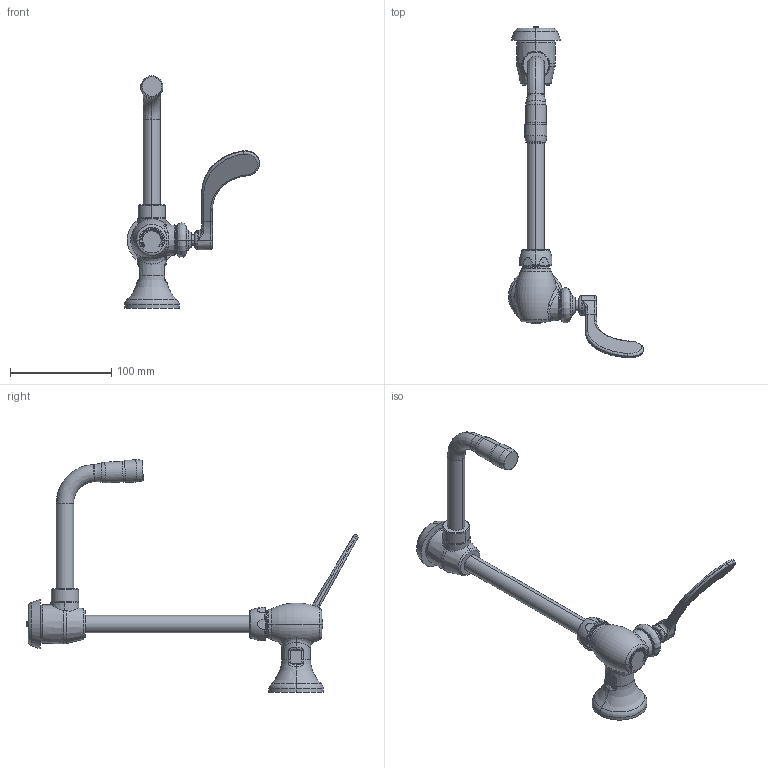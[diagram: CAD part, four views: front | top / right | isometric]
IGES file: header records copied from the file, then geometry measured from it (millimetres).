
Start section:  PTC IGES file: LWS4-A25-E.igs
Global section: file name: LWS4-A25-E.igs; native system: Creo Parametric by PTC Inc.; preprocessor: 2014500; author: usch_engrender; organization: Unknown; date: 20151207.111049; units: inch
Bounding box: 133.44 x 328.23 x 229.76 mm (x, y, z)
Volume: 284847.8 mm3; surface area: 67062.1 mm2
Topology: 1 solids, 3 shells, 545 faces, 1392 edges, 894 vertices
Faces by surface type: bspline 233, extrusion 158, revolution 154
